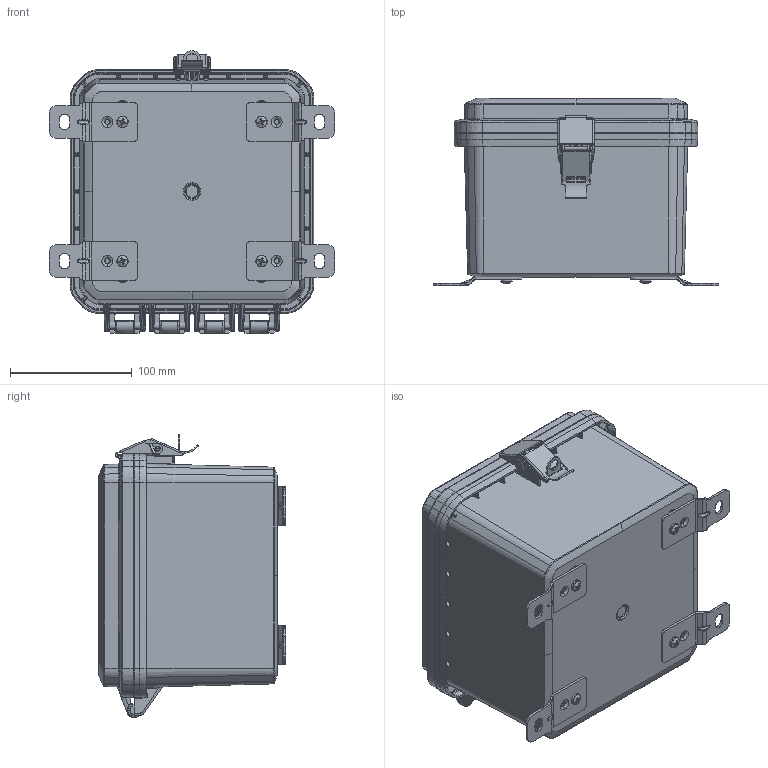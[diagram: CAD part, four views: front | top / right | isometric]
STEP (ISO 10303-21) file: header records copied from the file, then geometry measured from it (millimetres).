
FILE_DESCRIPTION (( 'STEP AP214' ), '1' );
FILE_NAME ('HP-070705-21.STEP', '2025-02-12T11:37:51', ( '' ), ( '' ), 'SwSTEP 2.0', 'SolidWorks 2024', '' );
FILE_SCHEMA (( 'AUTOMOTIVE_DESIGN' ));
Length unit declared in the file: inch
Products named in the file (16): ZH-01L5; HP-07071C_HP-07071C-01; HP-0707G; SCREWS-049_SCREWS-049; HP-070705-21; INSERTS-4; HP-07071CG_HP-07071CG-01; ZH-91F-01_ZH-91F-01; ZH-01L1; ZH-01L4; HP-0707xB_HP-07074B-01; HP-0707xBI_HP-07074BI-01; LABEL-105; ZH-01L3; ZH-01L2; ZH-01L
Assembly tree (24 placements, depth 3):
  HP-070705-21
    HP-0707xBI_HP-07074BI-01
      HP-0707xB_HP-07074B-01
      LABEL-105
      INSERTS-4  x4
    HP-07071CG_HP-07071CG-01
      HP-07071C_HP-07071C-01
      HP-0707G
    ZH-01L
      ZH-01L1
      ZH-01L2
      ZH-01L3
      ZH-01L4
      ZH-01L5
    SCREWS-049_SCREWS-049  x4
    ZH-91F-01_ZH-91F-01  x4
Bounding box: 234.95 x 153.88 x 232.37 mm (x, y, z)
Volume: 689061.2 mm3; surface area: 452287.4 mm2
Topology: 21 solids, 21 shells, 4843 faces, 11546 edges, 6702 vertices
Faces by surface type: bspline 1615, cylinder 1161, plane 1059, torus 528, cone 312, sphere 168
Entity records: 180363 total; most frequent: CARTESIAN_POINT 93668, ORIENTED_EDGE 20288, DIRECTION 15572, EDGE_CURVE 10144, AXIS2_PLACEMENT_3D 6391, VERTEX_POINT 5865, EDGE_LOOP 4395, FACE_OUTER_BOUND 4327
